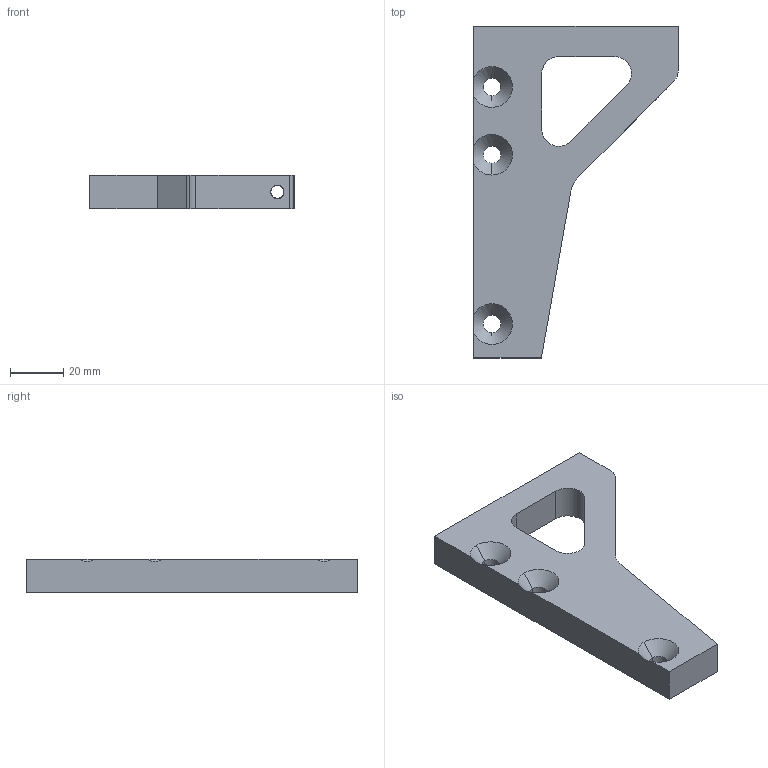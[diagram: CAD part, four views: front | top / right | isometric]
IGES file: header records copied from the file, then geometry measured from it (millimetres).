
Start section: 3D InterOp IGES (Version 21 0 3), Spatial Corp. Copyright (c) 1999-2007.
Global section: file name: export0.igs; native system: Spatial Corp.; preprocessor: 3D InterOp ACIS/IGES; author: Noname; organization: Noname; date: 20140203.013911; units: centimetre
Bounding box: 76.71 x 124.46 x 12.7 mm (x, y, z)
Surface area: 16865.3 mm2 (no closed solid volume)
Topology: 0 solids, 0 shells, 34 faces, 202 edges, 202 vertices
Faces by surface type: revolution 23, extrusion 11
